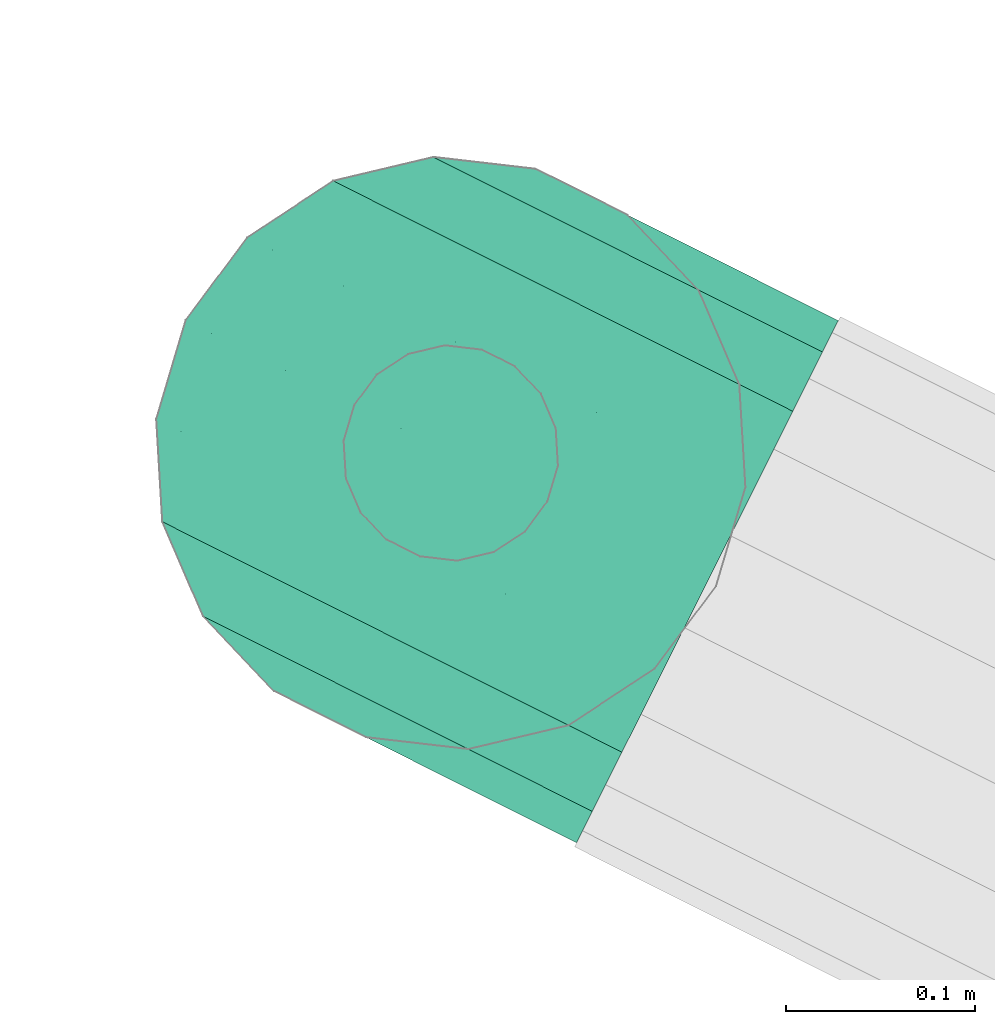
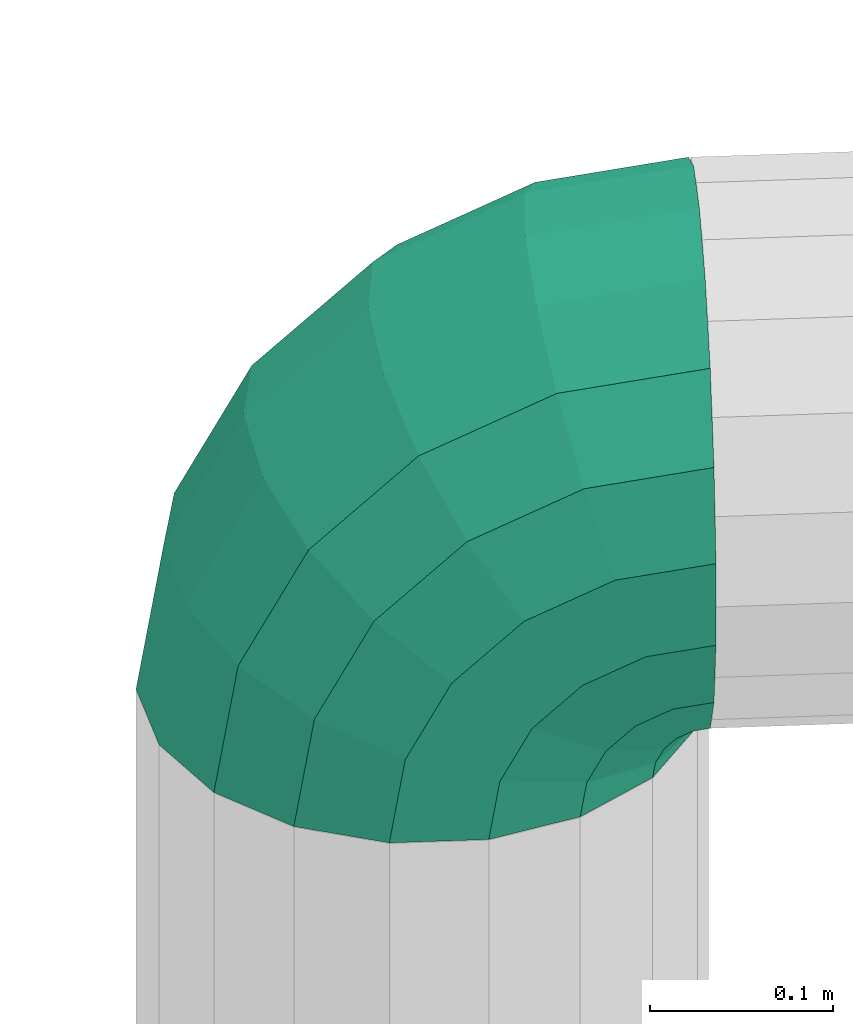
# One storey, part 47 of 152: 1 flow segment.
"""IFC2X3 building model written with IfcOpenShell, lengths in metres."""

from ifc_helpers import new_model, si_unit, derived_unit, direction, frame, origin, place, context, subcontext, project, spatial, face_set, surface_model, source, transform, mapped, material, type_object, type_shapes, element, save


model = new_model("IFC2X3")

# Units and contexts
model_context = context("Model", 3, precision=5.2338327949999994e-05, world=origin(), true_north=direction((0.0, 1.0)))
body_context = subcontext(model_context, "Body", "Model", "MODEL_VIEW")
ifc_project = project(units=[si_unit("LENGTHUNIT", "METRE"), si_unit("AREAUNIT", "SQUARE_METRE"), si_unit("VOLUMEUNIT", "CUBIC_METRE"), si_unit("MASSUNIT", "GRAM", prefix="KILO"), si_unit("PLANEANGLEUNIT", "RADIAN"), derived_unit("THERMALTRANSMITTANCEUNIT", [(si_unit("MASSUNIT", "GRAM", prefix="KILO"), 1), (si_unit("THERMODYNAMICTEMPERATUREUNIT", "KELVIN"), -1), (si_unit("TIMEUNIT", "SECOND"), -3)])], contexts=[model_context])

# Site, building, storey
site_placement = place(None, frame((0.0, 0.0, 0.0), z_axis=(0.0, 0.0, 1.0), x_axis=(0.8939966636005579, -0.4480736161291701, 0.0)))
site = spatial("IfcSite", under=ifc_project, at=site_placement, Name="Default", CompositionType="ELEMENT")
building_placement = place(site_placement, origin())
building = spatial("IfcBuilding", under=site, at=building_placement, CompositionType="ELEMENT")
storey_placement = place(building_placement, frame((0.0, 0.0, 2.7499999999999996)))
storey = spatial("IfcBuildingStorey", under=building, at=storey_placement, Name="1. Obergeschoss", CompositionType="ELEMENT", Elevation=2.7499999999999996)

# Flow segment
ifc_material = material(Name="IfcSurfaceStyle #1741")
distribution_element_type = type_object("IfcDistributionElementType", Name="Rohrbogen 7887:Rohrbogen 7887", material=ifc_material)
shared_shape = source(origin(), body_context, "Body", "SurfaceModel", [
    surface_model("IfcFaceBasedSurfaceModel", [(17.579318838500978, 7.3559190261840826, 6.5830307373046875), (17.56908225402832, 7.3559190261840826, 6.518399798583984), (17.58259654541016, 7.33637254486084, 6.581965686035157), (17.572528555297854, 7.33637254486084, 6.518399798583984), (17.60902632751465, 7.3559190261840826, 6.641335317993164), (17.611814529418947, 7.33637254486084, 6.6393092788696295), (17.655296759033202, 7.3559190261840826, 6.687605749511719), (17.6573233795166, 7.33637254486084, 6.684817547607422), (17.71360133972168, 7.3559190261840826, 6.717313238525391), (17.714666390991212, 7.33637254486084, 6.7140355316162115), (17.778232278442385, 7.3559190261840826, 6.727549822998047), (17.778232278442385, 7.33637254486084, 6.724103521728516), (17.59203550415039, 7.319183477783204, 6.578899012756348), (17.58245353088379, 7.319183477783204, 6.518399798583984), (17.61984310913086, 7.319183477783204, 6.633476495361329), (17.663156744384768, 7.319183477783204, 6.676788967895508), (17.717733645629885, 7.319183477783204, 6.70459715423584), (17.778232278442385, 7.319183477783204, 6.714179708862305), (17.59765725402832, 7.306425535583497, 6.518399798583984), (17.606495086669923, 7.306425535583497, 6.574200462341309), (17.632144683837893, 7.306425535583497, 6.624539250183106), (17.672093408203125, 7.306425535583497, 6.66448797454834), (17.722432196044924, 7.306425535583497, 6.690136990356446), (17.778232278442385, 7.306425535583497, 6.698974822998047), (17.61630844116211, 7.299636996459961, 6.518399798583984), (17.62423353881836, 7.299636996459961, 6.568437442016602), (17.647233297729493, 7.299636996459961, 6.613576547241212), (17.683055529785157, 7.299636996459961, 6.649399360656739), (17.728194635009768, 7.299636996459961, 6.672399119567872), (17.778232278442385, 7.299636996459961, 6.680324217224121), (17.636156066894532, 7.299636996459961, 6.518399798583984), (17.643110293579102, 7.299636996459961, 6.562304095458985), (17.66329045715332, 7.299636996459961, 6.601910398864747), (17.694722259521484, 7.299636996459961, 6.633341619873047), (17.734327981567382, 7.299636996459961, 6.653522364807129), (17.778232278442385, 7.299636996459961, 6.660476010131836), (17.66084874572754, 7.306425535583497, 6.556540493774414), (17.65480725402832, 7.306425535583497, 6.518399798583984), (17.678379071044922, 7.306425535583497, 6.590947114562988), (17.705685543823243, 7.306425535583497, 6.618253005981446), (17.740091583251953, 7.306425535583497, 6.635783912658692), (17.778232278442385, 7.306425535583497, 6.641824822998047), (17.67530832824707, 7.319183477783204, 6.551841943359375), (17.670012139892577, 7.319183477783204, 6.518399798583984), (17.690680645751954, 7.319183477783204, 6.5820104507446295), (17.714622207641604, 7.319183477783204, 6.605952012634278), (17.744790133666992, 7.319183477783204, 6.6213237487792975), (17.778232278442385, 7.319183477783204, 6.626620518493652), (17.67993595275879, 7.33637254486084, 6.518399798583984), (17.684747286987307, 7.33637254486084, 6.548775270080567), (17.69870922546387, 7.33637254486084, 6.576177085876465), (17.720455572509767, 7.33637254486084, 6.5979234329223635), (17.747857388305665, 7.33637254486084, 6.611885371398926), (17.778232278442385, 7.33637254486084, 6.616696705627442), (17.68338225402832, 7.3559190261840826, 6.518399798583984), (17.688024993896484, 7.3559190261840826, 6.547710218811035), (17.701497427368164, 7.3559190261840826, 6.574151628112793), (17.72248103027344, 7.3559190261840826, 6.595135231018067), (17.748922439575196, 7.3559190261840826, 6.608607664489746), (17.778232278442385, 7.3559190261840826, 6.613249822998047), (17.67993595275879, 7.375465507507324, 6.518399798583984), (17.684747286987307, 7.375465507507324, 6.548775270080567), (17.69870922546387, 7.375465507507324, 6.576177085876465), (17.720455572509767, 7.375465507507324, 6.5979234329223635), (17.747857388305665, 7.375465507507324, 6.611885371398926), (17.778232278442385, 7.375465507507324, 6.616696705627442), (17.67530832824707, 7.392654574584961, 6.551841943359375), (17.670012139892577, 7.392654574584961, 6.518399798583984), (17.690680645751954, 7.392654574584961, 6.5820104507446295), (17.714622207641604, 7.392654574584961, 6.605952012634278), (17.744790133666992, 7.392654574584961, 6.6213237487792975), (17.778232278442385, 7.392654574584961, 6.626620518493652), (17.65480725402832, 7.4054125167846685, 6.518399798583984), (17.66084874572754, 7.4054125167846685, 6.556540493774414), (17.678379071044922, 7.4054125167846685, 6.590947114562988), (17.705685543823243, 7.4054125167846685, 6.618253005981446), (17.740091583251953, 7.4054125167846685, 6.635783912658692), (17.778232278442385, 7.4054125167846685, 6.641824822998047), (17.643110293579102, 7.412201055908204, 6.562304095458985), (17.636156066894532, 7.412201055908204, 6.518399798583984), (17.66329045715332, 7.412201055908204, 6.601910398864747), (17.694722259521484, 7.412201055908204, 6.633341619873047), (17.734327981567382, 7.412201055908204, 6.653522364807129), (17.778232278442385, 7.412201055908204, 6.660476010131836), (17.62423353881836, 7.412201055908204, 6.568437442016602), (17.61630844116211, 7.412201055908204, 6.518399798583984), (17.647233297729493, 7.412201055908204, 6.613576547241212), (17.683055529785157, 7.412201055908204, 6.649399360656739), (17.728194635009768, 7.412201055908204, 6.672399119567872), (17.778232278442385, 7.412201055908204, 6.680324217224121), (17.59765725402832, 7.4054125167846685, 6.518399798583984), (17.606495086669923, 7.4054125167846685, 6.574200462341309), (17.632144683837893, 7.4054125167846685, 6.624539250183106), (17.672093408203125, 7.4054125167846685, 6.66448797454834), (17.722432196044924, 7.4054125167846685, 6.690136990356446), (17.778232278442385, 7.4054125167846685, 6.698974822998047), (17.59203550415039, 7.392654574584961, 6.578899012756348), (17.58245353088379, 7.392654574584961, 6.518399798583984), (17.61984310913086, 7.392654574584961, 6.633476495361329), (17.663156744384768, 7.392654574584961, 6.676788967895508), (17.717733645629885, 7.392654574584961, 6.70459715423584), (17.778232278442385, 7.392654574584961, 6.714179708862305), (17.572528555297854, 7.375465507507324, 6.518399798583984), (17.58259654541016, 7.375465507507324, 6.581965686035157), (17.611814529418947, 7.375465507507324, 6.6393092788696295), (17.6573233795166, 7.375465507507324, 6.684817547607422), (17.714666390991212, 7.375465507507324, 6.7140355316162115), (17.778232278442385, 7.375465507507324, 6.724103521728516), (17.48421301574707, 7.3559190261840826, 6.61393233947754), (17.469082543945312, 7.3559190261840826, 6.518399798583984), (17.478559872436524, 7.302170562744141, 6.518399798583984), (17.493226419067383, 7.302170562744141, 6.611004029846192), (17.52812428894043, 7.3559190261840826, 6.700113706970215), (17.53579242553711, 7.302170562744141, 6.694543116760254), (17.596518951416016, 7.3559190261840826, 6.7685077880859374), (17.60208954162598, 7.302170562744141, 6.760840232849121), (17.68269973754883, 7.3559190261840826, 6.812419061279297), (17.68562862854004, 7.302170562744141, 6.803405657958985), (17.778232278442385, 7.3559190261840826, 6.8275501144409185), (17.778232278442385, 7.302170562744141, 6.818072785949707), (17.505848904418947, 7.254904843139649, 6.518399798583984), (17.519179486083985, 7.254904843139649, 6.602571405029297), (17.55786898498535, 7.254904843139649, 6.6785033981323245), (17.61812926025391, 7.254904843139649, 6.738763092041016), (17.69406067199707, 7.254904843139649, 6.777452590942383), (17.778232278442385, 7.254904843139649, 6.790783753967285), (17.54765798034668, 7.219823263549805, 6.518399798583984), (17.55894217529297, 7.219823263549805, 6.589651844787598), (17.59169366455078, 7.219823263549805, 6.653928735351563), (17.642703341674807, 7.219823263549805, 6.70493899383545), (17.706980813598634, 7.219823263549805, 6.737689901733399), (17.778232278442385, 7.219823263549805, 6.748975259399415), (17.5989432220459, 7.201156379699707, 6.518399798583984), (17.607718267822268, 7.201156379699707, 6.573803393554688), (17.633185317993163, 7.201156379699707, 6.623783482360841), (17.67284917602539, 7.201156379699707, 6.66344792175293), (17.72282868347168, 7.201156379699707, 6.688913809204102), (17.778232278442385, 7.201156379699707, 6.697688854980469), (17.659625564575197, 7.201156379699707, 6.556938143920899), (17.653521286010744, 7.201156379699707, 6.518399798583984), (17.67733843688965, 7.201156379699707, 6.591703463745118), (17.70492861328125, 7.201156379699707, 6.6192936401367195), (17.739695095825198, 7.201156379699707, 6.637007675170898), (17.778232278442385, 7.201156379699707, 6.643111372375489), (17.70480769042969, 7.219823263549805, 6.518399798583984), (17.708401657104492, 7.219823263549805, 6.541089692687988), (17.71883009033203, 7.219823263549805, 6.561558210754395), (17.73507444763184, 7.219823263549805, 6.577801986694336), (17.755542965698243, 7.219823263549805, 6.588231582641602), (17.778232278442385, 7.219823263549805, 6.591824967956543), (17.74816318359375, 7.254904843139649, 6.52817013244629), (17.746616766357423, 7.254904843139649, 6.518399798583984), (17.75265476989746, 7.254904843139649, 6.536983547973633), (17.759648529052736, 7.254904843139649, 6.54397788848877), (17.76846194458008, 7.254904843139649, 6.548468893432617), (17.778232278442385, 7.254904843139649, 6.550015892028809), (17.773904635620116, 7.302170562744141, 6.518399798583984), (17.774117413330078, 7.302170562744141, 6.519736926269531), (17.774731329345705, 7.302170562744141, 6.52094324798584), (17.775689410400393, 7.302170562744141, 6.5219007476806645), (17.776895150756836, 7.302170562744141, 6.5225152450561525), (17.778232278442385, 7.302170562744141, 6.52272744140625), (17.778232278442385, 7.326713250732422, 6.518399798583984), (17.778232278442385, 7.326045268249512, 6.519143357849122), (17.778232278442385, 7.385124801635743, 6.518399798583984), (17.778232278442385, 7.385792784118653, 6.519143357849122), (17.774117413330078, 7.409667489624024, 6.519736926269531), (17.773904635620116, 7.409667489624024, 6.518399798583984), (17.774731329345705, 7.409667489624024, 6.52094324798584), (17.775689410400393, 7.409667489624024, 6.5219007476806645), (17.776895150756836, 7.409667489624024, 6.5225152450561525), (17.778232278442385, 7.409667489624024, 6.52272744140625), (17.74816318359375, 7.456933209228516, 6.52817013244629), (17.746616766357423, 7.456933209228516, 6.518399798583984), (17.75265476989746, 7.456933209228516, 6.536983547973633), (17.759648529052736, 7.456933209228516, 6.54397788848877), (17.76846194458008, 7.456933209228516, 6.548468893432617), (17.778232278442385, 7.456933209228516, 6.550015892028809), (17.70480769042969, 7.49201478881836, 6.518399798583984), (17.708401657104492, 7.49201478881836, 6.541089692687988), (17.71883009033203, 7.49201478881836, 6.561558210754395), (17.73507444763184, 7.49201478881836, 6.577801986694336), (17.755542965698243, 7.49201478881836, 6.588231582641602), (17.778232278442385, 7.49201478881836, 6.591824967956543), (17.653521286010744, 7.510681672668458, 6.518399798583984), (17.659625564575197, 7.510681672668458, 6.556938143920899), (17.67733843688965, 7.510681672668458, 6.591703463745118), (17.70492861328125, 7.510681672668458, 6.6192936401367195), (17.739695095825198, 7.510681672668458, 6.637007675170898), (17.778232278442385, 7.510681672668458, 6.643111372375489), (17.5989432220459, 7.510681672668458, 6.518399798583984), (17.607718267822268, 7.510681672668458, 6.573803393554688), (17.633185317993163, 7.510681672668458, 6.623783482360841), (17.67284917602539, 7.510681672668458, 6.66344792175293), (17.72282868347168, 7.510681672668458, 6.688913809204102), (17.778232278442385, 7.510681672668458, 6.697688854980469), (17.55894217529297, 7.49201478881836, 6.589651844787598), (17.54765798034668, 7.49201478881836, 6.518399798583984), (17.59169366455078, 7.49201478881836, 6.653928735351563), (17.642703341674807, 7.49201478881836, 6.70493899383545), (17.706980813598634, 7.49201478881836, 6.737689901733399), (17.778232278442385, 7.49201478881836, 6.748975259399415), (17.519179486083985, 7.456933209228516, 6.602571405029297), (17.505848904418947, 7.456933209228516, 6.518399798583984), (17.55786898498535, 7.456933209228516, 6.6785033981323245), (17.61812926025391, 7.456933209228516, 6.738763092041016), (17.69406067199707, 7.456933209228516, 6.777452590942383), (17.778232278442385, 7.456933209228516, 6.790783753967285), (17.478559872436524, 7.409667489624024, 6.518399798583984), (17.493226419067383, 7.409667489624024, 6.611004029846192), (17.53579242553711, 7.409667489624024, 6.694543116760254), (17.60208954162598, 7.409667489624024, 6.760840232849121), (17.68562862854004, 7.409667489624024, 6.803405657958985), (17.778232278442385, 7.409667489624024, 6.818072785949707)], [face_set([[[0, 1, 2]], [[3, 2, 1]], [[4, 0, 5]], [[2, 5, 0]], [[6, 4, 7]], [[5, 7, 4]], [[8, 6, 7]], [[7, 9, 8]], [[10, 8, 9]], [[9, 11, 10]], [[2, 3, 12]], [[13, 12, 3]], [[5, 2, 14]], [[12, 14, 2]], [[7, 5, 15]], [[14, 15, 5]], [[9, 7, 16]], [[15, 16, 7]], [[11, 9, 17]], [[16, 17, 9]], [[12, 13, 18]], [[18, 19, 12]], [[14, 12, 19]], [[19, 20, 14]], [[15, 14, 21]], [[20, 21, 14]], [[16, 15, 21]], [[21, 22, 16]], [[17, 16, 22]], [[22, 23, 17]], [[19, 18, 24]], [[24, 25, 19]], [[20, 19, 26]], [[25, 26, 19]], [[21, 20, 26]], [[26, 27, 21]], [[22, 21, 27]], [[27, 28, 22]], [[23, 22, 28]], [[28, 29, 23]], [[25, 24, 30]], [[30, 31, 25]], [[26, 25, 32]], [[31, 32, 25]], [[27, 26, 32]], [[32, 33, 27]], [[28, 27, 33]], [[33, 34, 28]], [[29, 28, 35]], [[34, 35, 28]], [[31, 30, 36]], [[37, 36, 30]], [[32, 31, 38]], [[36, 38, 31]], [[33, 32, 39]], [[38, 39, 32]], [[34, 33, 40]], [[39, 40, 33]], [[35, 34, 41]], [[40, 41, 34]], [[36, 37, 42]], [[43, 42, 37]], [[38, 36, 44]], [[42, 44, 36]], [[39, 38, 45]], [[44, 45, 38]], [[40, 39, 46]], [[45, 46, 39]], [[41, 40, 46]], [[46, 47, 41]], [[42, 43, 48]], [[48, 49, 42]], [[44, 42, 49]], [[49, 50, 44]], [[45, 44, 50]], [[50, 51, 45]], [[46, 45, 51]], [[51, 52, 46]], [[47, 46, 52]], [[52, 53, 47]], [[49, 48, 54]], [[54, 55, 49]], [[50, 49, 56]], [[55, 56, 49]], [[51, 50, 56]], [[56, 57, 51]], [[52, 51, 58]], [[57, 58, 51]], [[53, 52, 59]], [[58, 59, 52]], [[55, 54, 60]], [[60, 61, 55]], [[56, 55, 61]], [[61, 62, 56]], [[57, 56, 63]], [[62, 63, 56]], [[58, 57, 64]], [[63, 64, 57]], [[59, 58, 65]], [[64, 65, 58]], [[61, 60, 66]], [[67, 66, 60]], [[62, 61, 68]], [[66, 68, 61]], [[63, 62, 68]], [[68, 69, 63]], [[64, 63, 69]], [[69, 70, 64]], [[65, 64, 71]], [[70, 71, 64]], [[66, 67, 72]], [[72, 73, 66]], [[68, 66, 73]], [[73, 74, 68]], [[69, 68, 75]], [[74, 75, 68]], [[70, 69, 76]], [[75, 76, 69]], [[71, 70, 77]], [[76, 77, 70]], [[73, 72, 78]], [[79, 78, 72]], [[74, 73, 78]], [[78, 80, 74]], [[75, 74, 80]], [[80, 81, 75]], [[76, 75, 81]], [[81, 82, 76]], [[77, 76, 83]], [[82, 83, 76]], [[78, 79, 84]], [[85, 84, 79]], [[80, 78, 86]], [[84, 86, 78]], [[81, 80, 87]], [[86, 87, 80]], [[82, 81, 88]], [[87, 88, 81]], [[83, 82, 88]], [[88, 89, 83]], [[84, 85, 90]], [[90, 91, 84]], [[86, 84, 91]], [[91, 92, 86]], [[87, 86, 92]], [[92, 93, 87]], [[88, 87, 94]], [[93, 94, 87]], [[89, 88, 95]], [[94, 95, 88]], [[91, 90, 96]], [[97, 96, 90]], [[92, 91, 96]], [[96, 98, 92]], [[93, 92, 98]], [[98, 99, 93]], [[94, 93, 99]], [[99, 100, 94]], [[95, 94, 100]], [[100, 101, 95]], [[96, 97, 102]], [[102, 103, 96]], [[98, 96, 104]], [[103, 104, 96]], [[99, 98, 105]], [[104, 105, 98]], [[100, 99, 105]], [[105, 106, 100]], [[101, 100, 106]], [[106, 107, 101]], [[103, 102, 1]], [[1, 0, 103]], [[104, 103, 0]], [[0, 4, 104]], [[105, 104, 4]], [[4, 6, 105]], [[106, 105, 8]], [[6, 8, 105]], [[107, 106, 10]], [[8, 10, 106]], [[108, 109, 110]], [[110, 111, 108]], [[112, 108, 113]], [[111, 113, 108]], [[114, 112, 115]], [[113, 115, 112]], [[116, 114, 115]], [[115, 117, 116]], [[118, 116, 117]], [[117, 119, 118]], [[111, 110, 120]], [[120, 121, 111]], [[113, 111, 121]], [[121, 122, 113]], [[115, 113, 123]], [[122, 123, 113]], [[117, 115, 123]], [[123, 124, 117]], [[119, 117, 124]], [[124, 125, 119]], [[121, 120, 126]], [[126, 127, 121]], [[122, 121, 127]], [[127, 128, 122]], [[123, 122, 128]], [[128, 129, 123]], [[124, 123, 129]], [[129, 130, 124]], [[125, 124, 130]], [[130, 131, 125]], [[127, 126, 132]], [[132, 133, 127]], [[128, 127, 134]], [[133, 134, 127]], [[129, 128, 134]], [[134, 135, 129]], [[130, 129, 136]], [[135, 136, 129]], [[131, 130, 137]], [[136, 137, 130]], [[133, 132, 138]], [[139, 138, 132]], [[134, 133, 138]], [[138, 140, 134]], [[135, 134, 140]], [[140, 141, 135]], [[136, 135, 141]], [[141, 142, 136]], [[137, 136, 142]], [[142, 143, 137]], [[138, 139, 144]], [[144, 145, 138]], [[140, 138, 145]], [[145, 146, 140]], [[141, 140, 146]], [[146, 147, 141]], [[142, 141, 148]], [[147, 148, 141]], [[143, 142, 148]], [[148, 149, 143]], [[145, 144, 150]], [[151, 150, 144]], [[146, 145, 152]], [[150, 152, 145]], [[147, 146, 152]], [[152, 153, 147]], [[148, 147, 154]], [[153, 154, 147]], [[149, 148, 155]], [[154, 155, 148]], [[150, 151, 156]], [[156, 157, 150]], [[152, 150, 158]], [[157, 158, 150]], [[153, 152, 158]], [[158, 159, 153]], [[154, 153, 159]], [[159, 160, 154]], [[155, 154, 160]], [[160, 161, 155]], [[162, 157, 163]], [[162, 163, 156]], [[157, 156, 163]], [[158, 157, 162]], [[159, 158, 162]], [[160, 159, 162]], [[161, 160, 162]], [[164, 165, 166]], [[167, 166, 165]], [[165, 164, 167]], [[166, 168, 164]], [[164, 168, 169]], [[169, 170, 164]], [[170, 171, 164]], [[166, 167, 172]], [[173, 172, 167]], [[168, 166, 172]], [[172, 174, 168]], [[169, 168, 175]], [[174, 175, 168]], [[170, 169, 176]], [[175, 176, 169]], [[171, 170, 176]], [[176, 177, 171]], [[172, 173, 178]], [[178, 179, 172]], [[174, 172, 179]], [[179, 180, 174]], [[175, 174, 181]], [[180, 181, 174]], [[176, 175, 182]], [[181, 182, 175]], [[177, 176, 182]], [[182, 183, 177]], [[179, 178, 184]], [[184, 185, 179]], [[180, 179, 186]], [[185, 186, 179]], [[181, 180, 186]], [[186, 187, 181]], [[182, 181, 187]], [[187, 188, 182]], [[183, 182, 189]], [[188, 189, 182]], [[185, 184, 190]], [[190, 191, 185]], [[186, 185, 192]], [[191, 192, 185]], [[187, 186, 193]], [[192, 193, 186]], [[188, 187, 194]], [[193, 194, 187]], [[189, 188, 195]], [[194, 195, 188]], [[191, 190, 196]], [[197, 196, 190]], [[192, 191, 196]], [[196, 198, 192]], [[193, 192, 199]], [[198, 199, 192]], [[194, 193, 199]], [[199, 200, 194]], [[195, 194, 200]], [[200, 201, 195]], [[196, 197, 202]], [[203, 202, 197]], [[198, 196, 204]], [[202, 204, 196]], [[199, 198, 205]], [[204, 205, 198]], [[200, 199, 206]], [[205, 206, 199]], [[201, 200, 207]], [[206, 207, 200]], [[202, 203, 208]], [[208, 209, 202]], [[204, 202, 210]], [[209, 210, 202]], [[205, 204, 210]], [[210, 211, 205]], [[206, 205, 211]], [[211, 212, 206]], [[207, 206, 213]], [[212, 213, 206]], [[209, 208, 109]], [[109, 108, 209]], [[210, 209, 112]], [[108, 112, 209]], [[211, 210, 112]], [[112, 114, 211]], [[212, 211, 116]], [[114, 116, 211]], [[213, 212, 118]], [[116, 118, 212]]])]),
])
type_shapes(distribution_element_type, [shared_shape])
flow_segment_placement = place(storey_placement, frame((0.0, 0.0, -2.7499999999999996)))
element("IfcFlowSegment", 1, at=flow_segment_placement, inside=storey, type_object=distribution_element_type, material=ifc_material, Name="Rohrbogen", ObjectType="Rohrbogen", context=body_context, shape_type="MappedRepresentation", body=[
    mapped(shared_shape, transform((0.0, 0.0, 0.0), scale=1.0)),
])

save(model, "model.ifc")
